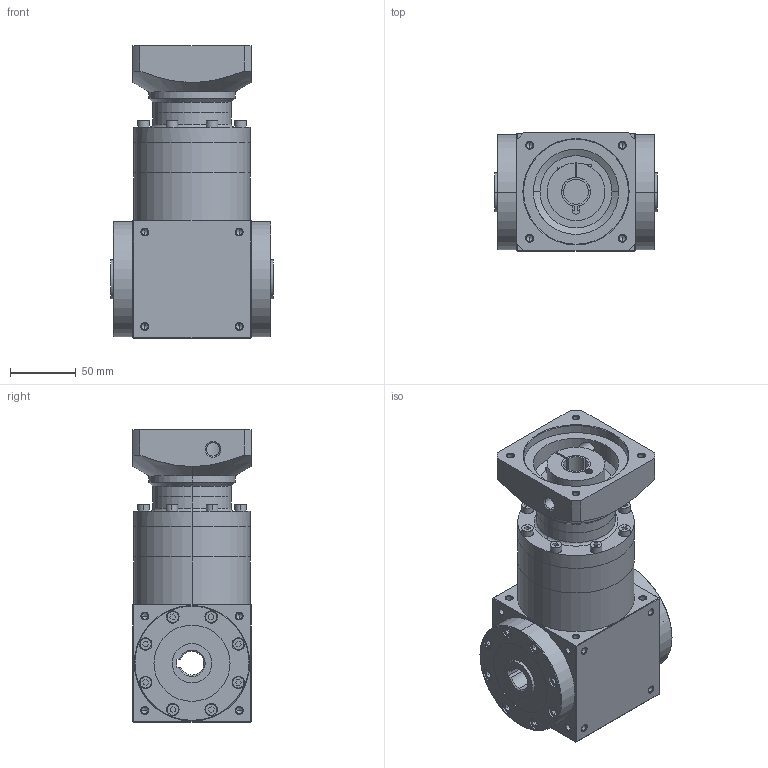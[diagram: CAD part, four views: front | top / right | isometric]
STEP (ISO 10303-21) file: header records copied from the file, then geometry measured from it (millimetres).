
FILE_DESCRIPTION (( 'STEP AP203' ), '1' );
FILE_NAME ('AT090-FH-L3-19-80-100M6.STEP', '2025-08-13T08:37:12', ( 'Windows User' ), ( 'P R C' ), 'SwSTEP 2.0', 'SolidWorks 2016', '' );
FILE_SCHEMA (( 'CONFIG_CONTROL_DESIGN' ));
Length unit declared in the file: millimetre
Products named in the file (7): AT090-单级齿圈; 输入胀套-22; AT090-双级齿圈; AT090-输入法兰-F-80-M6-100; AT090-FH-L3-19-80-100M6; AT090-蛌褒眊极-謂-怀堤; AT090-蛌倰怀堤楊擘
Assembly tree (6 placements, depth 2):
  AT090-FH-L3-19-80-100M6
    AT090-蛌褒眊极-謂-怀堤
    AT090-蛌倰怀堤楊擘
    AT090-单级齿圈
    输入胀套-22
    AT090-双级齿圈
    AT090-输入法兰-F-80-M6-100
Bounding box: 124 x 90 x 223 mm (x, y, z)
Volume: 1241569.2 mm3; surface area: 220060.9 mm2
Topology: 6 solids, 18 shells, 1477 faces, 3749 edges, 2364 vertices
Faces by surface type: plane 745, cylinder 310, cone 234, bspline 188
Entity records: 53358 total; most frequent: CARTESIAN_POINT 18723, ORIENTED_EDGE 7310, DIRECTION 6379, EDGE_CURVE 3655, LINE 2381, VECTOR 2381, VERTEX_POINT 2363, AXIS2_PLACEMENT_3D 1999
